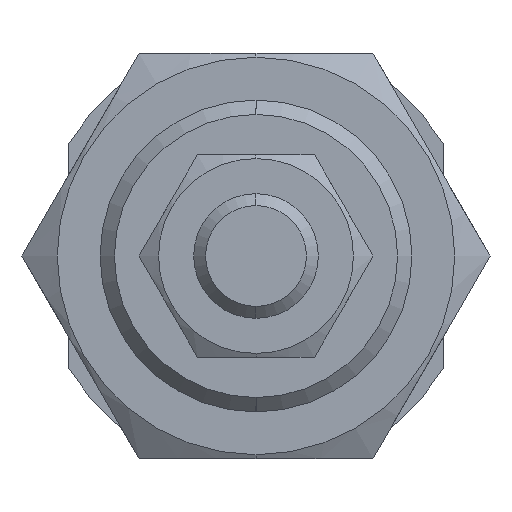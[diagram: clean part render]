
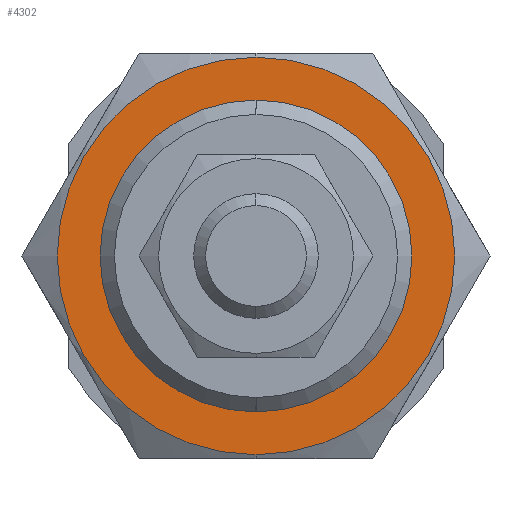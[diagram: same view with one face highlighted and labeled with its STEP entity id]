
A CAD part, left-side view. The second image highlights one B-rep face of the part: STEP entity #4302.
In plain terms, the highlighted planar face has unit normal (-1, 0, 0).
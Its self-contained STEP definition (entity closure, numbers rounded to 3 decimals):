
#204 = DIRECTION ( 'NONE',  ( 1., 0., 0. ) ) ;
#218 = CARTESIAN_POINT ( 'NONE',  ( -11., 0., -10. ) ) ;
#236 = DIRECTION ( 'NONE',  ( 0., 0., -1. ) ) ;
#301 = VERTEX_POINT ( 'NONE', #961 ) ;
#377 = CARTESIAN_POINT ( 'NONE',  ( -11., 0., -12.75 ) ) ;
#497 = DIRECTION ( 'NONE',  ( 1., 0., 0. ) ) ;
#730 = CIRCLE ( 'NONE', #2137, 10. ) ;
#961 = CARTESIAN_POINT ( 'NONE',  ( -11., 0., 12.75 ) ) ;
#1009 = PLANE ( 'NONE',  #3426 ) ;
#1076 = AXIS2_PLACEMENT_3D ( 'NONE', #1889, #4445, #236 ) ;
#1169 = CIRCLE ( 'NONE', #1076, 10. ) ;
#1370 = CARTESIAN_POINT ( 'NONE',  ( -11., 0., 0. ) ) ;
#1488 = EDGE_CURVE ( 'NONE', #2375, #3782, #730, .T. ) ;
#1513 = ORIENTED_EDGE ( 'NONE', *, *, #1747, .T. ) ;
#1563 = DIRECTION ( 'NONE',  ( 0., 0., -1. ) ) ;
#1733 = EDGE_LOOP ( 'NONE', ( #3674, #5399 ) ) ;
#1747 = EDGE_CURVE ( 'NONE', #3782, #2375, #1169, .T. ) ;
#1791 = EDGE_CURVE ( 'NONE', #301, #4435, #4262, .T. ) ;
#1823 = CIRCLE ( 'NONE', #2531, 12.75 ) ;
#1889 = CARTESIAN_POINT ( 'NONE',  ( -11., 0., 0. ) ) ;
#2022 = CARTESIAN_POINT ( 'NONE',  ( -11., 0., 0. ) ) ;
#2137 = AXIS2_PLACEMENT_3D ( 'NONE', #2274, #204, #2300 ) ;
#2274 = CARTESIAN_POINT ( 'NONE',  ( -11., 0., 0. ) ) ;
#2300 = DIRECTION ( 'NONE',  ( 0., 0., -1. ) ) ;
#2375 = VERTEX_POINT ( 'NONE', #3464 ) ;
#2388 = DIRECTION ( 'NONE',  ( 1., 0., 0. ) ) ;
#2515 = EDGE_LOOP ( 'NONE', ( #3506, #1513 ) ) ;
#2531 = AXIS2_PLACEMENT_3D ( 'NONE', #2022, #3715, #4912 ) ;
#2916 = AXIS2_PLACEMENT_3D ( 'NONE', #4864, #2388, #1563 ) ;
#3208 = EDGE_CURVE ( 'NONE', #4435, #301, #1823, .T. ) ;
#3426 = AXIS2_PLACEMENT_3D ( 'NONE', #1370, #497, #5116 ) ;
#3464 = CARTESIAN_POINT ( 'NONE',  ( -11., 0., 10. ) ) ;
#3506 = ORIENTED_EDGE ( 'NONE', *, *, #1488, .T. ) ;
#3674 = ORIENTED_EDGE ( 'NONE', *, *, #3208, .F. ) ;
#3715 = DIRECTION ( 'NONE',  ( 1., 0., 0. ) ) ;
#3782 = VERTEX_POINT ( 'NONE', #218 ) ;
#4262 = CIRCLE ( 'NONE', #2916, 12.75 ) ;
#4302 = ADVANCED_FACE ( 'NONE', ( #5195, #4385 ), #1009, .F. ) ;
#4385 = FACE_BOUND ( 'NONE', #2515, .T. ) ;
#4435 = VERTEX_POINT ( 'NONE', #377 ) ;
#4445 = DIRECTION ( 'NONE',  ( 1., 0., 0. ) ) ;
#4864 = CARTESIAN_POINT ( 'NONE',  ( -11., 0., 0. ) ) ;
#4912 = DIRECTION ( 'NONE',  ( 0., 0., -1. ) ) ;
#5116 = DIRECTION ( 'NONE',  ( 0., 1., 0. ) ) ;
#5195 = FACE_OUTER_BOUND ( 'NONE', #1733, .T. ) ;
#5399 = ORIENTED_EDGE ( 'NONE', *, *, #1791, .F. ) ;
